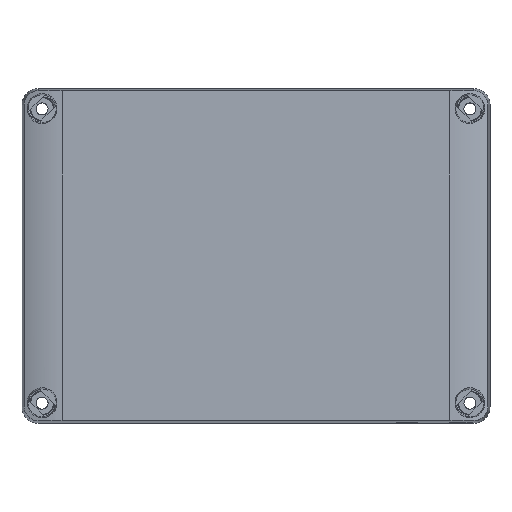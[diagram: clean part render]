
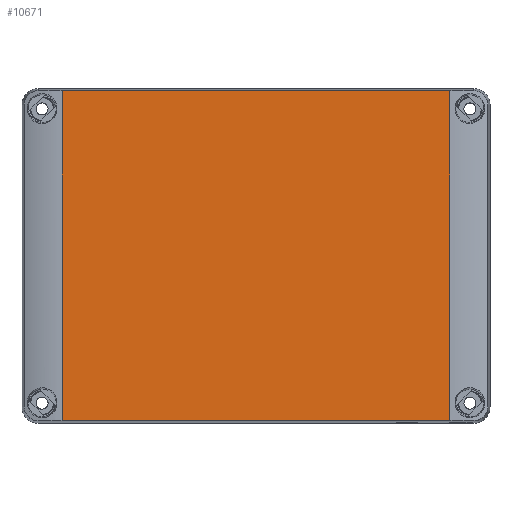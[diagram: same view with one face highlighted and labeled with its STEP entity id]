
A CAD part, top view. The second image highlights one B-rep face of the part: STEP entity #10671.
In plain terms, the highlighted planar face has unit normal (0, 0, 1).
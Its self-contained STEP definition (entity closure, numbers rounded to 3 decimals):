
#791 = VERTEX_POINT ( 'NONE', #18343 ) ;
#2533 = VERTEX_POINT ( 'NONE', #75480 ) ;
#3411 = ORIENTED_EDGE ( 'NONE', *, *, #42272, .T. ) ;
#5457 = ORIENTED_EDGE ( 'NONE', *, *, #52280, .T. ) ;
#8891 = LINE ( 'NONE', #47168, #10755 ) ;
#9428 = CARTESIAN_POINT ( 'NONE',  ( -72.5, -61.627, 50. ) ) ;
#10671 = ADVANCED_FACE ( 'NONE', ( #13418 ), #36383, .T. ) ;
#10755 = VECTOR ( 'NONE', #53070, 1000. ) ;
#13418 = FACE_OUTER_BOUND ( 'NONE', #64715, .T. ) ;
#15395 = VECTOR ( 'NONE', #74116, 1000. ) ;
#17188 = CARTESIAN_POINT ( 'NONE',  ( 72.5, -61.627, 50. ) ) ;
#17447 = DIRECTION ( 'NONE',  ( 0., -1., 0. ) ) ;
#18166 = VECTOR ( 'NONE', #17447, 1000. ) ;
#18343 = CARTESIAN_POINT ( 'NONE',  ( -72.5, -61.627, 50. ) ) ;
#20041 = LINE ( 'NONE', #46324, #18166 ) ;
#31053 = LINE ( 'NONE', #9428, #15395 ) ;
#36383 = PLANE ( 'NONE',  #45172 ) ;
#36916 = DIRECTION ( 'NONE',  ( 1., 0., 0. ) ) ;
#37016 = VERTEX_POINT ( 'NONE', #55645 ) ;
#42272 = EDGE_CURVE ( 'NONE', #73004, #2533, #73736, .T. ) ;
#45172 = AXIS2_PLACEMENT_3D ( 'NONE', #66283, #72229, #36916 ) ;
#45933 = ORIENTED_EDGE ( 'NONE', *, *, #51244, .T. ) ;
#46324 = CARTESIAN_POINT ( 'NONE',  ( -72.5, -62.5, 50. ) ) ;
#47168 = CARTESIAN_POINT ( 'NONE',  ( -72.5, 61.627, 50. ) ) ;
#51244 = EDGE_CURVE ( 'NONE', #2533, #37016, #8891, .T. ) ;
#52280 = EDGE_CURVE ( 'NONE', #791, #73004, #31053, .T. ) ;
#52880 = ORIENTED_EDGE ( 'NONE', *, *, #68790, .T. ) ;
#53070 = DIRECTION ( 'NONE',  ( -1., 0., 0. ) ) ;
#55645 = CARTESIAN_POINT ( 'NONE',  ( -72.5, 61.627, 50. ) ) ;
#56165 = VECTOR ( 'NONE', #75852, 1000. ) ;
#64715 = EDGE_LOOP ( 'NONE', ( #52880, #5457, #3411, #45933 ) ) ;
#66283 = CARTESIAN_POINT ( 'NONE',  ( -72.5, -62.5, 50. ) ) ;
#68790 = EDGE_CURVE ( 'NONE', #37016, #791, #20041, .T. ) ;
#69905 = CARTESIAN_POINT ( 'NONE',  ( 72.5, -62.5, 50. ) ) ;
#72229 = DIRECTION ( 'NONE',  ( 0., 0., 1. ) ) ;
#73004 = VERTEX_POINT ( 'NONE', #17188 ) ;
#73736 = LINE ( 'NONE', #69905, #56165 ) ;
#74116 = DIRECTION ( 'NONE',  ( 1., 0., 0. ) ) ;
#75480 = CARTESIAN_POINT ( 'NONE',  ( 72.5, 61.627, 50. ) ) ;
#75852 = DIRECTION ( 'NONE',  ( 0., 1., 0. ) ) ;
